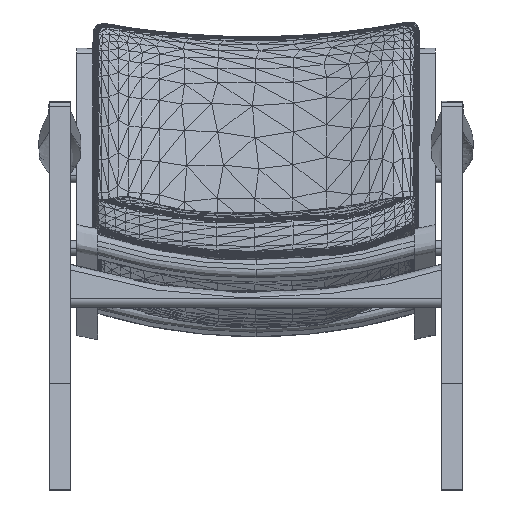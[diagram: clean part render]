
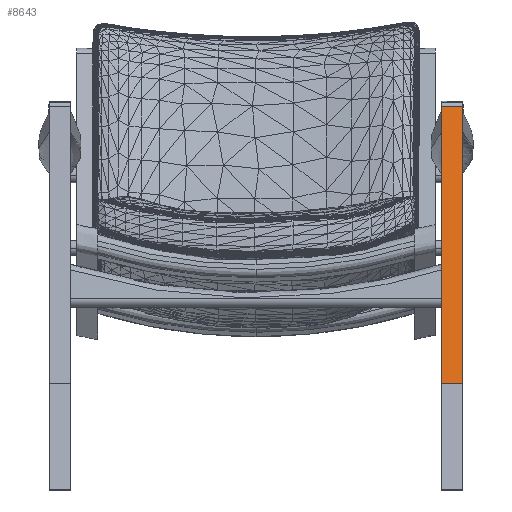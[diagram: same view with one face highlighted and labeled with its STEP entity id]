
A CAD part, front view. The second image highlights one B-rep face of the part: STEP entity #8643.
In plain terms, the highlighted free-form (B-spline) face has degree [1, 2] with [2, 5] control points.
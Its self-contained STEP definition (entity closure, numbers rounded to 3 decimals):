
#90=(
BOUNDED_CURVE()
B_SPLINE_CURVE(1,(#162056,#162057),.UNSPECIFIED.,.F.,.F.)
B_SPLINE_CURVE_WITH_KNOTS((2,2),(3445.726,4074.874),
 .UNSPECIFIED.)
CURVE()
GEOMETRIC_REPRESENTATION_ITEM()
RATIONAL_B_SPLINE_CURVE((1.,1.))
REPRESENTATION_ITEM('')
);
#92=(
BOUNDED_CURVE()
B_SPLINE_CURVE(1,(#162201,#162202),.UNSPECIFIED.,.F.,.F.)
B_SPLINE_CURVE_WITH_KNOTS((2,2),(3445.726,4074.874),
 .UNSPECIFIED.)
CURVE()
GEOMETRIC_REPRESENTATION_ITEM()
RATIONAL_B_SPLINE_CURVE((1.,1.))
REPRESENTATION_ITEM('')
);
#241=(
BOUNDED_SURFACE()
B_SPLINE_SURFACE(1,2,((#145341,#145342,#145343,#145344,#145345),(#145346,
#145347,#145348,#145349,#145350)),.UNSPECIFIED.,.F.,.F.,.F.)
B_SPLINE_SURFACE_WITH_KNOTS((2,2),(3,2,3),(0.,70.),(-4166.371,-4159.138,
-3445.726),.UNSPECIFIED.)
GEOMETRIC_REPRESENTATION_ITEM()
RATIONAL_B_SPLINE_SURFACE(((1.,0.935,1.,1.,1.),(1.,0.935,
1.,1.,1.)))
REPRESENTATION_ITEM('')
SURFACE()
);
#8643=ADVANCED_FACE('',(#17093),#241,.T.);
#17093=FACE_OUTER_BOUND('',#25555,.T.);
#25555=EDGE_LOOP('',(#50759,#50760,#50761,#50762));
#50759=ORIENTED_EDGE('',*,*,#63994,.F.);
#50760=ORIENTED_EDGE('',*,*,#64003,.F.);
#50761=ORIENTED_EDGE('',*,*,#63966,.T.);
#50762=ORIENTED_EDGE('',*,*,#64002,.F.);
#63966=EDGE_CURVE('',#81347,#81344,#90,.T.);
#63994=EDGE_CURVE('',#81357,#81355,#92,.T.);
#64002=EDGE_CURVE('',#81355,#81344,#76828,.T.);
#64003=EDGE_CURVE('',#81347,#81357,#76829,.T.);
#76828=B_SPLINE_CURVE_WITH_KNOTS('',1,(#162237,#162238),.UNSPECIFIED.,.F.,
 .F.,(2,2),(-35.,0.),.UNSPECIFIED.);
#76829=B_SPLINE_CURVE_WITH_KNOTS('',1,(#162239,#162240),.UNSPECIFIED.,.F.,
 .F.,(2,2),(0.,70.),.UNSPECIFIED.);
#81344=VERTEX_POINT('',#161325);
#81347=VERTEX_POINT('',#161328);
#81355=VERTEX_POINT('',#161336);
#81357=VERTEX_POINT('',#161338);
#145341=CARTESIAN_POINT('',(662.5,26.064,107.117));
#145342=CARTESIAN_POINT('',(662.5,24.226,110.423));
#145343=CARTESIAN_POINT('',(662.5,25.037,114.118));
#145344=CARTESIAN_POINT('',(662.5,81.742,372.574));
#145345=CARTESIAN_POINT('',(662.5,138.446,631.031));
#145346=CARTESIAN_POINT('',(697.5,26.064,107.117));
#145347=CARTESIAN_POINT('',(697.5,24.226,110.423));
#145348=CARTESIAN_POINT('',(697.5,25.037,114.118));
#145349=CARTESIAN_POINT('',(697.5,81.742,372.574));
#145350=CARTESIAN_POINT('',(697.5,138.446,631.031));
#161325=CARTESIAN_POINT('',(662.5,38.432,175.172));
#161328=CARTESIAN_POINT('',(662.5,138.446,631.031));
#161336=CARTESIAN_POINT('',(697.5,38.432,175.172));
#161338=CARTESIAN_POINT('',(697.5,138.446,631.031));
#162056=CARTESIAN_POINT('',(662.5,138.446,631.031));
#162057=CARTESIAN_POINT('',(662.5,38.432,175.172));
#162201=CARTESIAN_POINT('',(697.5,138.446,631.031));
#162202=CARTESIAN_POINT('',(697.5,38.432,175.172));
#162237=CARTESIAN_POINT('',(697.5,38.432,175.172));
#162238=CARTESIAN_POINT('',(662.5,38.432,175.172));
#162239=CARTESIAN_POINT('',(662.5,138.446,631.031));
#162240=CARTESIAN_POINT('',(697.5,138.446,631.031));
